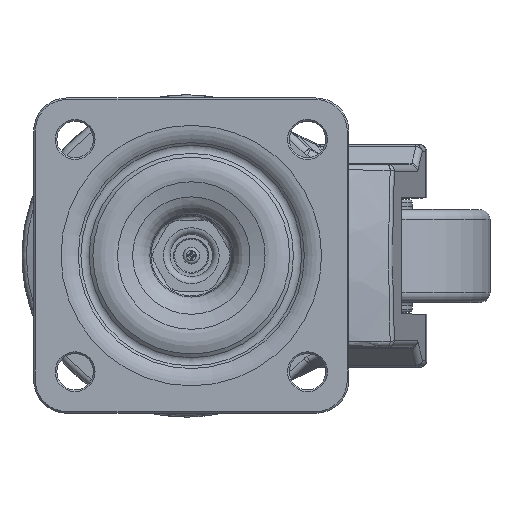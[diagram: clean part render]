
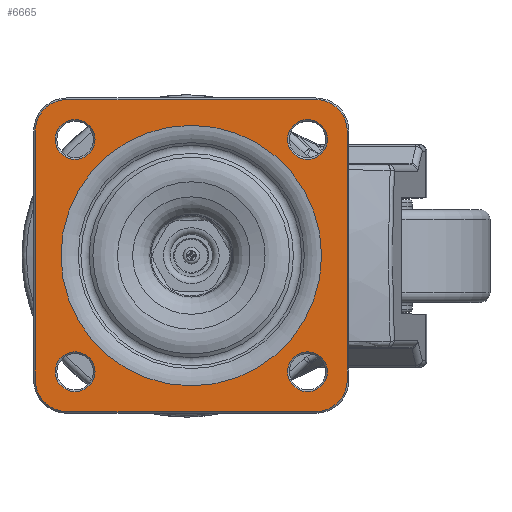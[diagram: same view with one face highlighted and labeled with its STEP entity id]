
A CAD part, top view. The second image highlights one B-rep face of the part: STEP entity #6665.
In plain terms, the highlighted planar face has unit normal (0, 0, 1).
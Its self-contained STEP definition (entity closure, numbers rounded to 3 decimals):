
#766=PLANE('',#26720);
#2660=LINE('',#36256,#3883);
#2661=LINE('',#36258,#3884);
#2662=LINE('',#36260,#3885);
#2664=LINE('',#36263,#3887);
#3883=VECTOR('',#29550,1.);
#3884=VECTOR('',#29553,1.);
#3885=VECTOR('',#29556,1.);
#3887=VECTOR('',#29560,1.);
#6665=ADVANCED_FACE('',(#8402,#8403,#8404,#8405,#8406,#8407),#766,.T.);
#8402=FACE_BOUND('',#8797,.T.);
#8403=FACE_BOUND('',#8798,.T.);
#8404=FACE_BOUND('',#8799,.T.);
#8405=FACE_BOUND('',#8800,.T.);
#8406=FACE_BOUND('',#8801,.T.);
#8407=FACE_BOUND('',#8802,.T.);
#8797=EDGE_LOOP('',(#10662,#10663,#10664,#10665,#10666,#10667,#10668,#10669));
#8798=EDGE_LOOP('',(#10670));
#8799=EDGE_LOOP('',(#10671));
#8800=EDGE_LOOP('',(#10672));
#8801=EDGE_LOOP('',(#10673));
#8802=EDGE_LOOP('',(#10674));
#10662=ORIENTED_EDGE('',*,*,#21231,.F.);
#10663=ORIENTED_EDGE('',*,*,#21196,.F.);
#10664=ORIENTED_EDGE('',*,*,#21233,.F.);
#10665=ORIENTED_EDGE('',*,*,#21189,.F.);
#10666=ORIENTED_EDGE('',*,*,#21235,.F.);
#10667=ORIENTED_EDGE('',*,*,#21192,.F.);
#10668=ORIENTED_EDGE('',*,*,#21232,.F.);
#10669=ORIENTED_EDGE('',*,*,#21199,.F.);
#10670=ORIENTED_EDGE('',*,*,#21177,.F.);
#10671=ORIENTED_EDGE('',*,*,#21169,.F.);
#10672=ORIENTED_EDGE('',*,*,#21139,.F.);
#10673=ORIENTED_EDGE('',*,*,#21165,.F.);
#10674=ORIENTED_EDGE('',*,*,#21173,.F.);
#18520=VERTEX_POINT('',#35986);
#18546=VERTEX_POINT('',#36112);
#18550=VERTEX_POINT('',#36123);
#18554=VERTEX_POINT('',#36134);
#18558=VERTEX_POINT('',#36145);
#18570=VERTEX_POINT('',#36174);
#18571=VERTEX_POINT('',#36175);
#18572=VERTEX_POINT('',#36180);
#18573=VERTEX_POINT('',#36181);
#18576=VERTEX_POINT('',#36189);
#18577=VERTEX_POINT('',#36190);
#18578=VERTEX_POINT('',#36195);
#18579=VERTEX_POINT('',#36196);
#21139=EDGE_CURVE('',#18520,#18520,#25152,.T.);
#21165=EDGE_CURVE('',#18546,#18546,#25160,.T.);
#21169=EDGE_CURVE('',#18550,#18550,#25164,.T.);
#21173=EDGE_CURVE('',#18554,#18554,#25168,.T.);
#21177=EDGE_CURVE('',#18558,#18558,#25172,.T.);
#21189=EDGE_CURVE('',#18570,#18571,#25180,.T.);
#21192=EDGE_CURVE('',#18572,#18573,#25181,.T.);
#21196=EDGE_CURVE('',#18576,#18577,#25183,.T.);
#21199=EDGE_CURVE('',#18578,#18579,#25184,.T.);
#21231=EDGE_CURVE('',#18577,#18578,#2660,.T.);
#21232=EDGE_CURVE('',#18579,#18572,#2661,.T.);
#21233=EDGE_CURVE('',#18571,#18576,#2662,.T.);
#21235=EDGE_CURVE('',#18573,#18570,#2664,.T.);
#25152=CIRCLE('',#26636,39.249);
#25160=CIRCLE('',#26652,6.);
#25164=CIRCLE('',#26659,6.);
#25168=CIRCLE('',#26666,6.);
#25172=CIRCLE('',#26673,6.);
#25180=CIRCLE('',#26686,9.5);
#25181=CIRCLE('',#26688,9.5);
#25183=CIRCLE('',#26691,9.5);
#25184=CIRCLE('',#26693,9.5);
#26636=AXIS2_PLACEMENT_3D('',#35985,#29358,#29359);
#26652=AXIS2_PLACEMENT_3D('',#36111,#29390,#29391);
#26659=AXIS2_PLACEMENT_3D('',#36122,#29404,#29405);
#26666=AXIS2_PLACEMENT_3D('',#36133,#29418,#29419);
#26673=AXIS2_PLACEMENT_3D('',#36144,#29432,#29433);
#26686=AXIS2_PLACEMENT_3D('',#36173,#29462,#29463);
#26688=AXIS2_PLACEMENT_3D('',#36179,#29468,#29469);
#26691=AXIS2_PLACEMENT_3D('',#36188,#29476,#29477);
#26693=AXIS2_PLACEMENT_3D('',#36194,#29482,#29483);
#26720=AXIS2_PLACEMENT_3D('',#36267,#29566,#29567);
#29358=DIRECTION('',(0.,0.,1.));
#29359=DIRECTION('',(-1.,0.,0.));
#29390=DIRECTION('',(0.,0.,1.));
#29391=DIRECTION('',(-1.,0.,0.));
#29404=DIRECTION('',(0.,0.,1.));
#29405=DIRECTION('',(-1.,0.,0.));
#29418=DIRECTION('',(0.,0.,1.));
#29419=DIRECTION('',(-1.,0.,0.));
#29432=DIRECTION('',(0.,0.,1.));
#29433=DIRECTION('',(-1.,0.,0.));
#29462=DIRECTION('',(0.,0.,-1.));
#29463=DIRECTION('',(0.707,0.707,0.));
#29468=DIRECTION('',(0.,0.,-1.));
#29469=DIRECTION('',(-0.707,0.707,0.));
#29476=DIRECTION('',(0.,0.,-1.));
#29477=DIRECTION('',(0.707,-0.707,0.));
#29482=DIRECTION('',(0.,0.,-1.));
#29483=DIRECTION('',(-0.707,-0.707,0.));
#29550=DIRECTION('',(-1.,0.,0.));
#29553=DIRECTION('',(0.,1.,0.));
#29556=DIRECTION('',(0.,-1.,0.));
#29560=DIRECTION('',(1.,0.,0.));
#29566=DIRECTION('',(0.,0.,1.));
#29567=DIRECTION('',(-1.,0.,0.));
#35985=CARTESIAN_POINT('',(0.,0.,0.));
#35986=CARTESIAN_POINT('',(-39.249,0.,0.));
#36111=CARTESIAN_POINT('',(-35.,35.,0.));
#36112=CARTESIAN_POINT('',(-29.,35.,0.));
#36122=CARTESIAN_POINT('',(35.,35.,0.));
#36123=CARTESIAN_POINT('',(41.,35.,0.));
#36133=CARTESIAN_POINT('',(35.,-35.,0.));
#36134=CARTESIAN_POINT('',(41.,-35.,0.));
#36144=CARTESIAN_POINT('',(-35.,-35.,0.));
#36145=CARTESIAN_POINT('',(-29.,-35.,0.));
#36173=CARTESIAN_POINT('',(37.5,37.5,0.));
#36174=CARTESIAN_POINT('',(37.5,47.,0.));
#36175=CARTESIAN_POINT('',(47.,37.5,0.));
#36179=CARTESIAN_POINT('',(-37.5,37.5,0.));
#36180=CARTESIAN_POINT('',(-47.,37.5,0.));
#36181=CARTESIAN_POINT('',(-37.5,47.,0.));
#36188=CARTESIAN_POINT('',(37.5,-37.5,0.));
#36189=CARTESIAN_POINT('',(47.,-37.5,0.));
#36190=CARTESIAN_POINT('',(37.5,-47.,0.));
#36194=CARTESIAN_POINT('',(-37.5,-37.5,0.));
#36195=CARTESIAN_POINT('',(-37.5,-47.,0.));
#36196=CARTESIAN_POINT('',(-47.,-37.5,0.));
#36256=CARTESIAN_POINT('',(37.5,-47.,0.));
#36258=CARTESIAN_POINT('',(-47.,-37.5,0.));
#36260=CARTESIAN_POINT('',(47.,37.5,0.));
#36263=CARTESIAN_POINT('',(-37.5,47.,0.));
#36267=CARTESIAN_POINT('',(-39.647,0.,0.));
